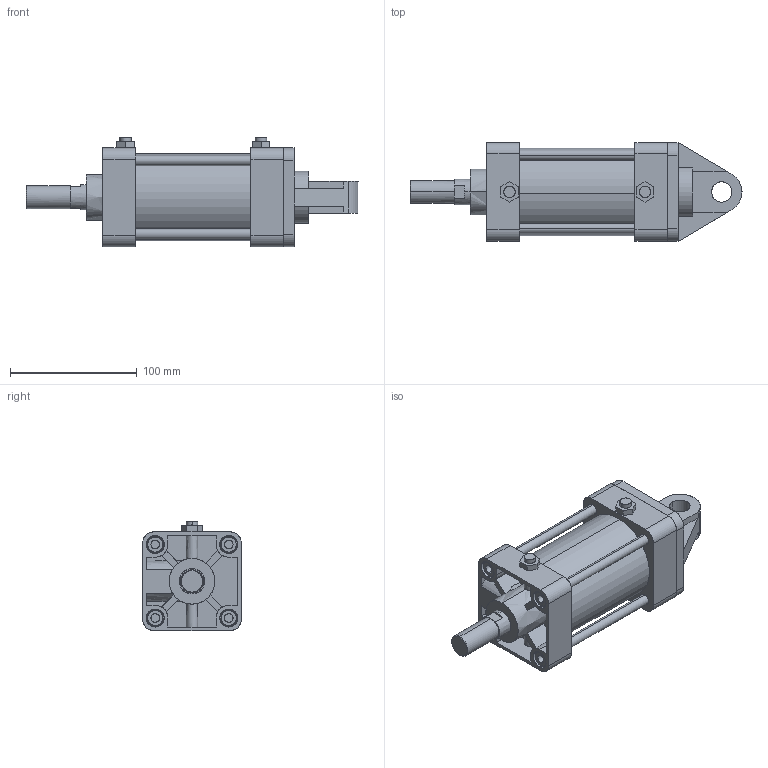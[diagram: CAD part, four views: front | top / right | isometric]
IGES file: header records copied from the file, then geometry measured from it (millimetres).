
Start section: SolidWorks IGES file using analytic representation for surfaces
Global section: file name: C:\Users\Toshiba\Desktop\KG2-63-50-C.IGS; native system: SolidWorks 2014; preprocessor: SolidWorks 2014; author: Toshiba; date: 160401.161524; units: millimetre
Bounding box: 262 x 78 x 86.3 mm (x, y, z)
Surface area: 141603.4 mm2 (no closed solid volume)
Topology: 0 solids, 0 shells, 354 faces, 5560 edges, 5556 vertices
Faces by surface type: bspline 190, revolution 164
